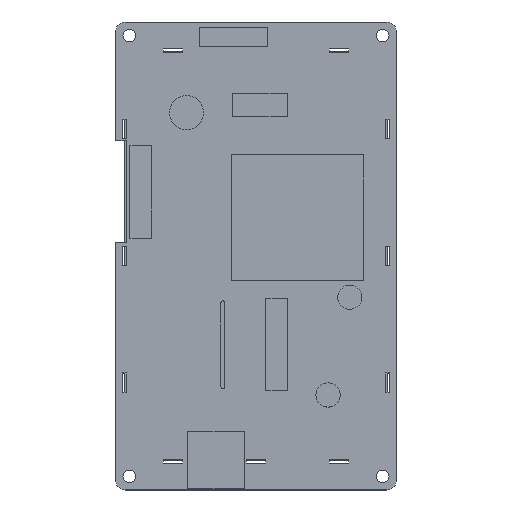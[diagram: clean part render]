
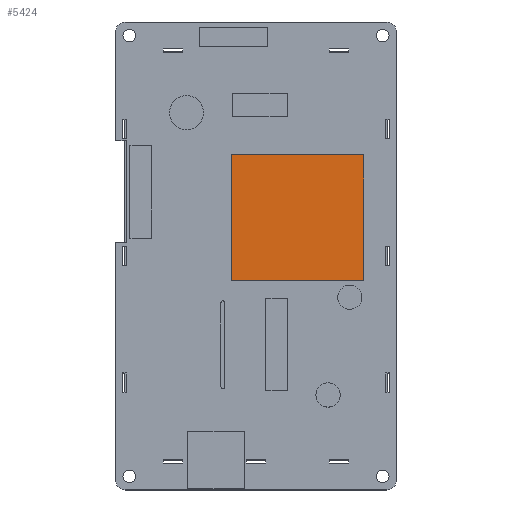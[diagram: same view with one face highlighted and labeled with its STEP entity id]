
A CAD part, top view. The second image highlights one B-rep face of the part: STEP entity #5424.
In plain terms, the highlighted planar face has unit normal (0, 0, 1).
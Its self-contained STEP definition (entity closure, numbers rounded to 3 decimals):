
#1612=DIRECTION('',(-1.,0.,0.));
#1613=VECTOR('',#1612,34.417);
#1614=CARTESIAN_POINT('',(28.105,26.34,5.2));
#1615=LINE('',#1614,#1613);
#1616=DIRECTION('',(0.,1.,0.));
#1617=VECTOR('',#1616,32.766);
#1618=CARTESIAN_POINT('',(28.105,-6.426,5.2));
#1619=LINE('',#1618,#1617);
#1620=DIRECTION('',(1.,0.,0.));
#1621=VECTOR('',#1620,34.417);
#1622=CARTESIAN_POINT('',(-6.312,-6.426,5.2));
#1623=LINE('',#1622,#1621);
#1624=DIRECTION('',(0.,-1.,0.));
#1625=VECTOR('',#1624,32.766);
#1626=CARTESIAN_POINT('',(-6.312,26.34,5.2));
#1627=LINE('',#1626,#1625);
#1986=CARTESIAN_POINT('',(28.105,26.34,5.2));
#1987=CARTESIAN_POINT('',(-6.312,26.34,5.2));
#1988=VERTEX_POINT('',#1986);
#1989=VERTEX_POINT('',#1987);
#1990=CARTESIAN_POINT('',(-6.312,-6.426,5.2));
#1991=VERTEX_POINT('',#1990);
#1992=CARTESIAN_POINT('',(28.105,-6.426,5.2));
#1993=VERTEX_POINT('',#1992);
#5413=CARTESIAN_POINT('',(-36.576,3.48,5.2));
#5414=DIRECTION('',(0.,0.,1.));
#5415=DIRECTION('',(0.,-1.,0.));
#5416=AXIS2_PLACEMENT_3D('',#5413,#5414,#5415);
#5417=PLANE('',#5416);
#5418=ORIENTED_EDGE('',*,*,#5337,.F.);
#5419=ORIENTED_EDGE('',*,*,#5359,.F.);
#5420=ORIENTED_EDGE('',*,*,#5380,.F.);
#5421=ORIENTED_EDGE('',*,*,#5400,.F.);
#5422=EDGE_LOOP('',(#5418,#5419,#5420,#5421));
#5423=FACE_OUTER_BOUND('',#5422,.F.);
#5337=EDGE_CURVE('',#1988,#1989,#1615,.T.);
#5359=EDGE_CURVE('',#1993,#1988,#1619,.T.);
#5380=EDGE_CURVE('',#1991,#1993,#1623,.T.);
#5400=EDGE_CURVE('',#1989,#1991,#1627,.T.);
#5424=ADVANCED_FACE('',(#5423),#5417,.T.);
